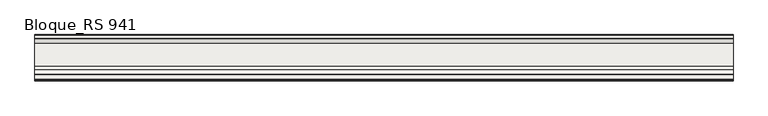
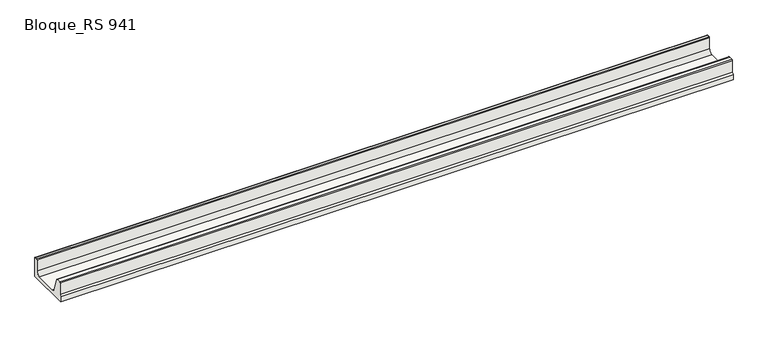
"""IFC4 building model written with IfcOpenShell, lengths in millimetres: slab geometry, ROSA GRES_RS 941 : Bloque_RS 941."""

import ifcopenshell
import ifcopenshell.guid

model = None  # the IFC model being written
_history = None  # IfcOwnerHistory: only IFC2X3 demands one
_inside = {}  # id of a spatial element -> (the spatial element, [elements in it])
_under = {}  # id of a project, library or spatial element -> (it, [spatial elements below it])
_declared = {}  # id of a project -> (the project, [libraries it declares])
_typed = {}  # id of a type object -> (the type object, [elements of that type])
_made_of = {}  # id of a material, layer set ... -> (it, [elements and type objects made of it])


def new_model(schema):
    """Start an empty IFC model of exactly this schema.

    Asked for "IFC4X3", IfcOpenShell would pick the latest addendum, in which some entities
    have other attributes; the version numbers below select the first issue.
    IFC2X3 requires an IfcOwnerHistory on every rooted entity: one is made here for all.
    """
    global model, _history
    if schema == "IFC4X3":
        model = ifcopenshell.file(schema_version=(4, 3, 0, 0))
    else:
        model = ifcopenshell.file(schema=schema)
    _inside.clear()
    _under.clear()
    _declared.clear()
    _typed.clear()
    _made_of.clear()
    _history = None
    if model.schema == "IFC2X3":
        org = make("IfcOrganization", Name="unknown")
        user = make(
            "IfcPersonAndOrganization",
            ThePerson=make("IfcPerson", FamilyName="unknown"),
            TheOrganization=org,
        )
        app = make(
            "IfcApplication",
            ApplicationDeveloper=org,
            Version="unknown",
            ApplicationFullName="unknown",
            ApplicationIdentifier="unknown",
        )
        _history = make(
            "IfcOwnerHistory",
            OwningUser=user,
            OwningApplication=app,
            ChangeAction="ADDED",
            CreationDate=0,
        )
    return model


def make(cls, **values):
    """One entity of the class cls with the attributes given. An attribute that is None is left unset."""
    return model.create_entity(
        cls, **{name: value for name, value in values.items() if value is not None}
    )


def rooted(cls, **values):
    """An entity with a GlobalId (a new one), such as an element, a storey or a relation."""
    return make(cls, GlobalId=ifcopenshell.guid.new(), OwnerHistory=_history, **values)


def si_unit(unit_type, name, prefix=None):
    """IfcSIUnit, for example si_unit("LENGTHUNIT", "METRE", prefix="MILLI")."""
    return make("IfcSIUnit", UnitType=unit_type, Prefix=prefix, Name=name)


def assignment(units):
    """IfcUnitAssignment: the units of a project."""
    return None if units is None else make("IfcUnitAssignment", Units=units)


def point(xyz):
    """IfcCartesianPoint."""
    return None if xyz is None else make("IfcCartesianPoint", Coordinates=xyz)


def direction(xyz):
    """IfcDirection."""
    return None if xyz is None else make("IfcDirection", DirectionRatios=xyz)


def frame(location, z_axis=None, x_axis=None):
    """IfcAxis2Placement3D, a coordinate frame: its origin and axes. An axis left out is left unset."""
    return make(
        "IfcAxis2Placement3D",
        Location=point(location),
        Axis=direction(z_axis),
        RefDirection=direction(x_axis),
    )


def frame_2d(location, x_axis=None):
    """IfcAxis2Placement2D, a coordinate frame in the plane: its origin and x axis."""
    return make(
        "IfcAxis2Placement2D", Location=point(location), RefDirection=direction(x_axis)
    )


def origin():
    """The frame at (0, 0, 0) with its axes left unset."""
    return frame((0.0, 0.0, 0.0))


def place(relative_to, where):
    """IfcLocalPlacement: puts the frame where relative to a parent placement (None: the world)."""
    return make(
        "IfcLocalPlacement", PlacementRelTo=relative_to, RelativePlacement=where
    )


def context(
    kind, dimensions, precision=None, world=None, true_north=None, identifier=None
):
    """IfcGeometricRepresentationContext, for example the 3D "Model" context."""
    return make(
        "IfcGeometricRepresentationContext",
        ContextIdentifier=identifier,
        ContextType=kind,
        CoordinateSpaceDimension=dimensions,
        Precision=precision,
        WorldCoordinateSystem=world,
        TrueNorth=true_north,
    )


def project(units=None, contexts=None):
    """IfcProject with its units and contexts."""
    return rooted(
        "IfcProject",
        Name="project",
        RepresentationContexts=contexts,
        UnitsInContext=assignment(units),
    )


def spatial(cls, under=None, at=None, **own):
    """A site, building, storey or space (cls), placed at a placement, below another one or the project."""
    s = rooted(cls, ObjectPlacement=at, **own)
    if under is not None:
        _under.setdefault(under.id(), (under, []))[1].append(s)
    return s


def polyline(points):
    """IfcPolyline through the points."""
    return make("IfcPolyline", Points=[point(p) for p in points])


def circle_curve(where, radius):
    """IfcCircle in the frame where."""
    return make("IfcCircle", Position=where, Radius=radius)


def trimmed(basis, trim1, trim2, sense, master):
    """IfcTrimmedCurve: the piece of a basis curve between two trims."""
    return make(
        "IfcTrimmedCurve",
        BasisCurve=basis,
        Trim1=trim1,
        Trim2=trim2,
        SenseAgreement=sense,
        MasterRepresentation=master,
    )


def segment(curve, same_sense, transition):
    """IfcCompositeCurveSegment."""
    return make(
        "IfcCompositeCurveSegment",
        Transition=transition,
        SameSense=same_sense,
        ParentCurve=curve,
    )


def composite_curve(segments, self_intersect=None):
    """IfcCompositeCurve: segments joined end to end."""
    return make("IfcCompositeCurve", Segments=segments, SelfIntersect=self_intersect)


def outline(outer, holes=None, kind="AREA"):
    """IfcArbitraryClosedProfileDef: a profile drawn as a closed curve; with holes, ...WithVoids."""
    if holes is None:
        return make("IfcArbitraryClosedProfileDef", ProfileType=kind, OuterCurve=outer)
    return make(
        "IfcArbitraryProfileDefWithVoids",
        ProfileType=kind,
        OuterCurve=outer,
        InnerCurves=holes,
    )


def extrude(swept, where, along, depth):
    """IfcExtrudedAreaSolid: the profile swept, set in the frame where, extruded along a direction by depth."""
    return make(
        "IfcExtrudedAreaSolid",
        SweptArea=swept,
        Position=where,
        ExtrudedDirection=direction(along),
        Depth=depth,
    )


def shape(context_of_items, identifier, shape_type, items):
    """IfcShapeRepresentation: the items that make up one representation, for example the "Body"."""
    return make(
        "IfcShapeRepresentation",
        ContextOfItems=context_of_items,
        RepresentationIdentifier=identifier,
        RepresentationType=shape_type,
        Items=items,
    )


def source(mapping_origin, context_of_items, identifier, shape_type, items):
    """IfcRepresentationMap: a shape defined once, which mapped items show again and again."""
    return make(
        "IfcRepresentationMap",
        MappingOrigin=mapping_origin,
        MappedRepresentation=shape(context_of_items, identifier, shape_type, items),
    )


def transform(
    local_origin,
    x_axis=None,
    y_axis=None,
    z_axis=None,
    scale=None,
    scale2=None,
    scale3=None,
    uniform=True,
):
    """IfcCartesianTransformationOperator3D, or its non-uniform kind. x_axis, y_axis, z_axis: its Axis1, 2, 3."""
    if uniform:
        return make(
            "IfcCartesianTransformationOperator3D",
            Axis1=direction(x_axis),
            Axis2=direction(y_axis),
            LocalOrigin=point(local_origin),
            Scale=scale,
            Axis3=direction(z_axis),
        )
    return make(
        "IfcCartesianTransformationOperator3DnonUniform",
        Axis1=direction(x_axis),
        Axis2=direction(y_axis),
        LocalOrigin=point(local_origin),
        Scale=scale,
        Axis3=direction(z_axis),
        Scale2=scale2,
        Scale3=scale3,
    )


def mapped(mapping_source, mapping_target):
    """IfcMappedItem: shows the shape of a source again, moved by a transform."""
    return make(
        "IfcMappedItem", MappingSource=mapping_source, MappingTarget=mapping_target
    )


def made_of(thing, what):
    """Note that an element or type object is made of a material, layer set ...; save() writes the relation."""
    if what is not None:
        _made_of.setdefault(what.id(), (what, []))[1].append(thing)
    return thing


def element(
    cls,
    number,
    at=None,
    inside=None,
    cuts=None,
    type_object=None,
    material=None,
    context=None,
    identifier="Body",
    shape_type=None,
    held_by="IfcProductDefinitionShape",
    body=None,
    shapes=None,
    **own,
):
    """One element of the class cls, such as IfcWall. Its Tag is "e" and its number.

    at: its placement. inside: the storey or other place that contains it. cuts: it is an
    opening in that element (IfcRelVoidsElement). A single representation is given by context,
    identifier, shape_type and body (its items); several are given by shapes. held_by: the class
    of the entity that holds the representations. save() writes the other relations.
    """
    e = rooted(cls, Tag="e%d" % number, ObjectPlacement=at, **own)
    if body is not None:
        shapes = [shape(context, identifier, shape_type, body)]
    if shapes is not None:
        e.Representation = make(held_by, Representations=shapes)
    if inside is not None:
        _inside.setdefault(inside.id(), (inside, []))[1].append(e)
    if cuts is not None:
        rooted(
            "IfcRelVoidsElement", RelatingBuildingElement=cuts, RelatedOpeningElement=e
        )
    if type_object is not None:
        _typed.setdefault(type_object.id(), (type_object, []))[1].append(e)
    return made_of(e, material)


def aggregate(whole, parts):
    """IfcRelAggregates: a whole, such as a stair, and the parts it consists of."""
    return rooted("IfcRelAggregates", RelatingObject=whole, RelatedObjects=parts)


def save(model, path):
    """Write the relations noted so far, then the file.

    IfcRelAggregates (storeys below a building ...), IfcRelContainedInSpatialStructure (elements
    in a storey), IfcRelDefinesByType, IfcRelAssociatesMaterial and IfcRelDeclares: one each for
    every whole, place, type object, material and project.
    """
    for whole, parts in _under.values():
        aggregate(whole, parts)
    for where, things in _inside.values():
        rooted(
            "IfcRelContainedInSpatialStructure",
            RelatedElements=things,
            RelatingStructure=where,
        )
    for kind, things in _typed.values():
        rooted("IfcRelDefinesByType", RelatedObjects=things, RelatingType=kind)
    for what, things in _made_of.values():
        rooted("IfcRelAssociatesMaterial", RelatedObjects=things, RelatingMaterial=what)
    for by, libraries in _declared.values():
        rooted("IfcRelDeclares", RelatingContext=by, RelatedDefinitions=libraries)
    model.write(path)


def bloque_rs_941_939d20ff(model_context):
    return source(origin(), model_context, "Body", "SweptSolid", [
        extrude(outline(composite_curve([segment(trimmed(circle_curve(frame_2d((290.8048832, 121.0098178)), 4.9901918), [point((290.7950654, 126.0))], [point((295.7950654, 121.0))], False, "CARTESIAN"), True, "CONTINUOUS"), segment(polyline([(295.7950654, 121.0), (295.7950654, 0.0), (15.7946269, 0.0), (15.7946269, 32.0012714), (22.7946272, 44.0), (22.7946272, 121.0)]), True, "CONTINUOUS"), segment(trimmed(circle_curve(frame_2d((27.7946272, 121.0)), 5.0), [point((22.7946272, 121.0))], [point((27.7946272, 126.0))], False, "CARTESIAN"), True, "CONTINUOUS"), segment(polyline([(27.7946272, 126.0), (54.1223252, 126.0)]), True, "CONTINUOUS"), segment(trimmed(circle_curve(frame_2d((54.1351224, 121.0174239)), 4.9825925), [point((54.1223252, 126.0))], [point((58.8933079, 122.4959025))], False, "CARTESIAN"), True, "CONTINUOUS"), segment(polyline([(58.8933079, 122.4959025), (83.9689438, 42.5204875)]), True, "CONTINUOUS"), segment(trimmed(circle_curve(frame_2d((107.6378199, 49.7467022)), 24.7474015), [point((83.9689438, 42.5204875))], [point((107.8238571, 25.0))], True, "CARTESIAN"), True, "CONTINUOUS"), segment(polyline([(107.8238571, 25.0), (246.7450654, 25.0)]), True, "CONTINUOUS"), segment(trimmed(circle_curve(frame_2d((246.8549987, 49.9398968)), 24.9401391), [point((246.7450654, 25.0))], [point((271.7950654, 50.0))], True, "CARTESIAN"), True, "CONTINUOUS"), segment(polyline([(271.7950654, 50.0), (271.7950654, 121.221769)]), True, "CONTINUOUS"), segment(trimmed(circle_curve(frame_2d((276.7873115, 121.0029619)), 4.9970389), [point((271.7950654, 121.221769))], [point((276.7901448, 126.0))], False, "CARTESIAN"), True, "CONTINUOUS"), segment(polyline([(276.7901448, 126.0), (290.7950654, 126.0)]), True, "CONTINUOUS")], self_intersect=False)), frame((0.0, 0.0, 0.0), z_axis=(1.0, 0.0, 0.0), x_axis=(0.0, 1.0, 0.0)), (0.0, 0.0, 1.0), 4211.9719773),
    ])


if __name__ == "__main__":
    model = new_model("IFC4")
    model_context = context("Model", 3, world=origin())
    ifc_project = project(units=[si_unit("LENGTHUNIT", "METRE", prefix="MILLI")], contexts=[model_context])
    site = spatial("IfcSite", under=ifc_project)
    building = spatial("IfcBuilding", under=site)
    placement = place(None, origin())
    bloque_rs_941_shape = bloque_rs_941_939d20ff(model_context)
    element("IfcSlab", 1, ObjectType="ROSA GRES_RS 941 : Bloque_RS 941", at=placement, inside=building, context=model_context, shape_type="MappedRepresentation", body=[
        mapped(bloque_rs_941_shape, transform((0.0, 0.0, 0.0), x_axis=(1.0, 0.0, 0.0), y_axis=(0.0, 1.0, 0.0), z_axis=(0.0, 0.0, 1.0))),
    ])
    save(model, "model.ifc")
